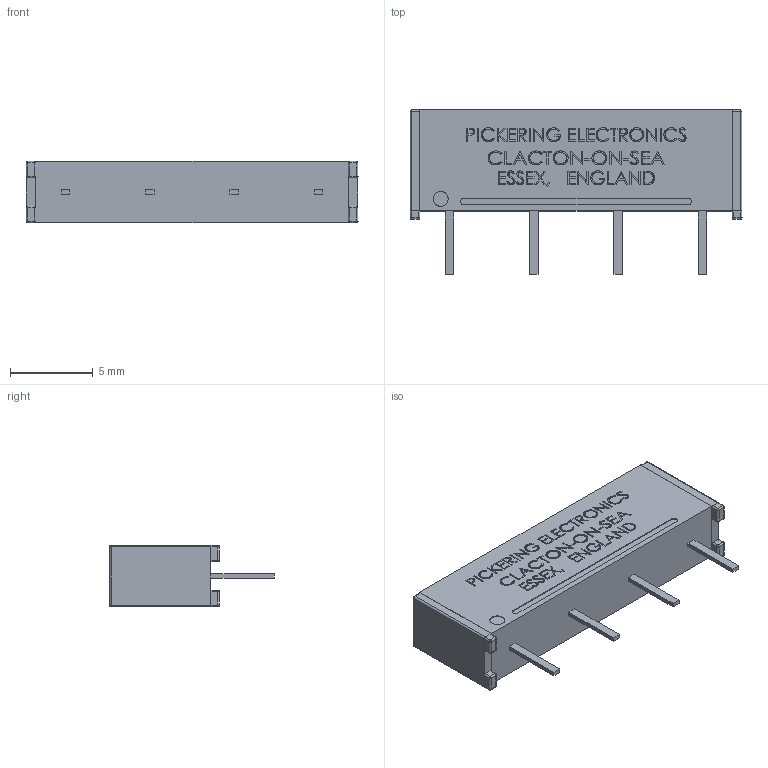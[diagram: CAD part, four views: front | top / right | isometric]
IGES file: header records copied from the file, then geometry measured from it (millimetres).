
Start section: SolidWorks IGES file using analytic representation for surfaces
Global section: file name: T:\Relays in Solidworks\Batch 1 .IGES\108-1-A.IGS; native system: SolidWorks 2009; preprocessor: SolidWorks 2009; author: alex.leming; date: 100629.114859; units: millimetre
Bounding box: 20 x 9.9 x 3.7 mm (x, y, z)
Surface area: 574.4 mm2 (no closed solid volume)
Topology: 0 solids, 0 shells, 1092 faces, 9105 edges, 9085 vertices
Faces by surface type: bspline 1022, revolution 70
